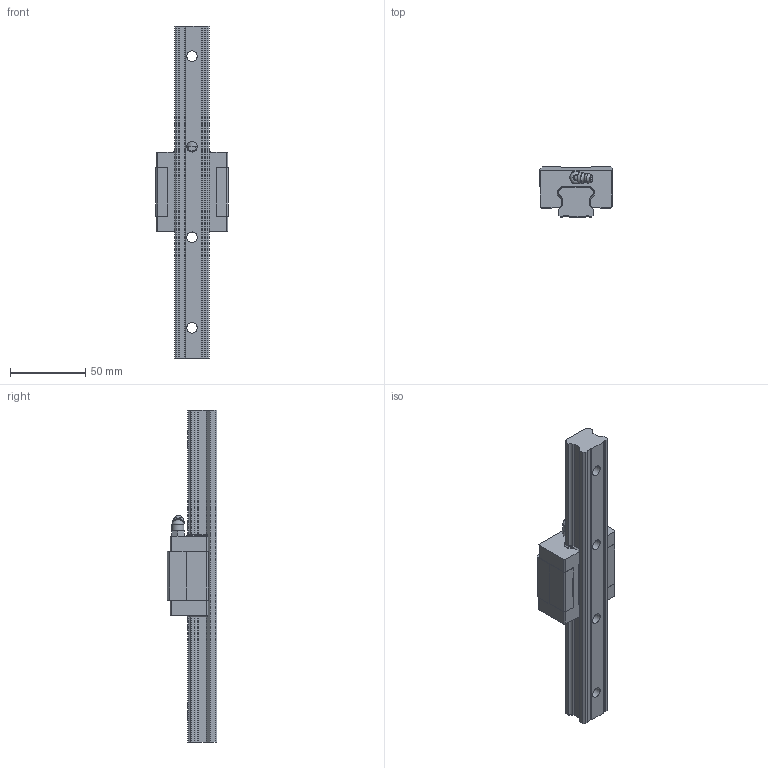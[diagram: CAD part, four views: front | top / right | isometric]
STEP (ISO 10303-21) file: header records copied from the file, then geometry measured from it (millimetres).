
FILE_DESCRIPTION((''),'2;1');
FILE_NAME('D:\製品 (図面)\カタログ用3D\変換ファイル\OZAK_3D-CAD(STEP形式)\Part2.-Linear Guides_ﾘﾆｱｶﾞｲﾄﾞ\07_Eco Guides_ｴｺｶﾞｲﾄﾞ\EGS-S\EGS25S.stp','2010-12-22T11:18:10',('Tsuchiya'),(''),'Autodesk Inventor 10','Autodesk Inventor 10','');
FILE_SCHEMA(('AUTOMOTIVE_DESIGN { 1 0 10303 214 1 1 1 1 }'));
Length unit declared in the file: millimetre
Products named in the file (3): EGS25S; EGS25S1; EGS25S2
Assembly tree (2 placements, depth 2):
  EGS25S
    EGS25S1
    EGS25S2
Bounding box: 48 x 33 x 220 mm (x, y, z)
Volume: 130422.2 mm3; surface area: 34339.2 mm2
Topology: 2 solids, 3 shells, 229 faces, 610 edges, 397 vertices
Faces by surface type: plane 161, cylinder 56, cone 8, bspline 2, torus 1, sphere 1
Full cylindrical faces by diameter (mm): 5 x2, 6 x5, 7 x4, 7.75 x1, 8 x1, 11 x4
Entity records: 7083 total; most frequent: CARTESIAN_POINT 1367, DIRECTION 1158, ORIENTED_EDGE 1150, EDGE_CURVE 575, VECTOR 438, LINE 438, VERTEX_POINT 388, AXIS2_PLACEMENT_3D 360
